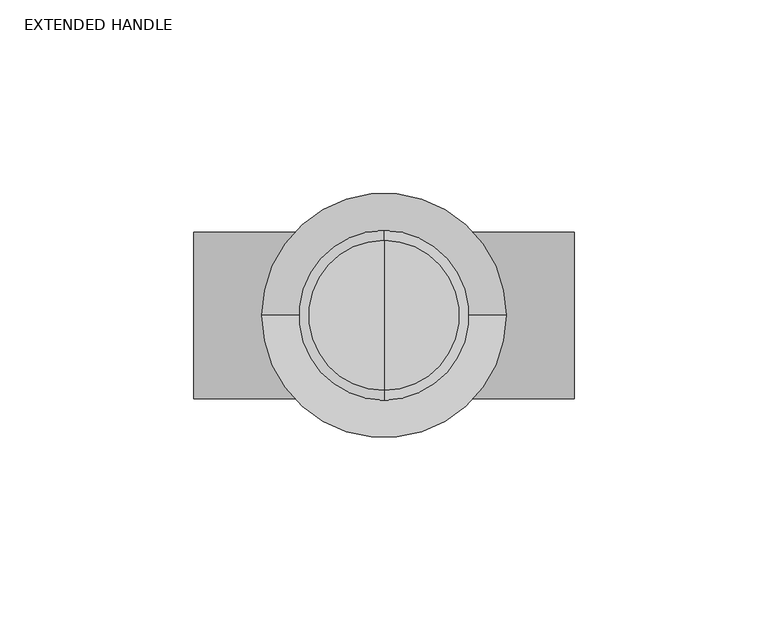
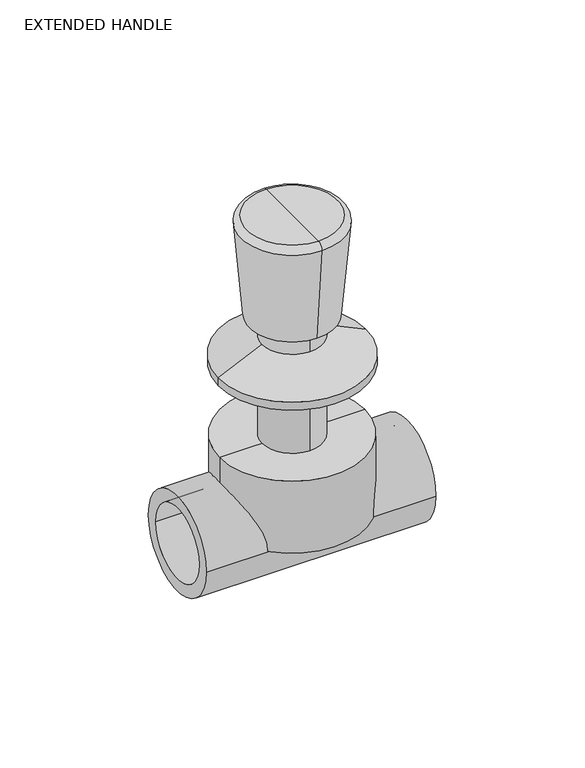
"""IFC4 building model written with IfcOpenShell, lengths in millimetres: valve geometry, Aquatherm - Concealed Valve Extended With Handle : EXTENDED HANDLE."""

from ifc_helpers import new_model, si_unit, point, frame, origin, origin_2d, place, context, project, spatial, polyline, circle_curve, ellipse_curve, trimmed, segment, composite_curve, outline, extrude, source, transform, mapped, element, save
from ifc_brep_helpers import plane_surface, cylinder_surface, revolved_surface, advanced_brep


def extended_handle_08318126(model_context):
    return source(origin(), model_context, "Body", "SolidModel", [
        advanced_brep(
        [(0.0, 19.3406564, 131.064), (0.0, -19.3406564, 131.064), (0.0, 0.0, 131.064), (0.0, 21.870991, 128.3026244), (0.0, -21.870991, 128.3026244), (0.0, 18.2125979, 86.487), (0.0, -18.2125979, 86.487), (0.0, 12.9442633, 86.487), (0.0, -12.9442633, 86.487), (0.0, 12.9442633, 77.277595), (0.0, -12.9442633, 77.277595), (0.0, 0.0, 77.277595)],
        [
            (0, 1, circle_curve(frame((0.0, 0.0, 131.064), z_axis=(0.0, 0.0, 1.0), x_axis=(0.0, -1.0, 0.0)), 19.3406564)),
            (1, 2),
            (2, 0),
            (1, 0, circle_curve(frame((0.0, 0.0, 131.064), z_axis=(0.0, 0.0, 1.0), x_axis=(0.0, -1.0, 0.0)), 19.3406564)),
            (3, 4, circle_curve(frame((0.0, 0.0, 128.3026244), z_axis=(0.0, 0.0, 1.0), x_axis=(0.0, -1.0, 0.0)), 21.870991)),
            (4, 1, circle_curve(frame((0.0, -19.3406564, 128.524), z_axis=(-1.0, 0.0, 0.0), x_axis=(0.0, -1.0, 0.0)), 2.54)),
            (0, 3, circle_curve(frame((0.0, 19.3406564, 128.524), z_axis=(-1.0, 0.0, 0.0), x_axis=(0.0, 1.0, 0.0)), 2.54)),
            (4, 3, circle_curve(frame((0.0, 0.0, 128.3026244), z_axis=(0.0, 0.0, 1.0), x_axis=(0.0, -1.0, 0.0)), 21.870991)),
            (5, 6, circle_curve(frame((0.0, 0.0, 86.487), z_axis=(0.0, 0.0, 1.0), x_axis=(0.0, -1.0, 0.0)), 18.2125979)),
            (6, 4),
            (3, 5),
            (6, 5, circle_curve(frame((0.0, 0.0, 86.487), z_axis=(0.0, 0.0, 1.0), x_axis=(0.0, -1.0, 0.0)), 18.2125979)),
            (7, 8, circle_curve(frame((0.0, 0.0, 86.487), z_axis=(0.0, 0.0, 1.0), x_axis=(0.0, -1.0, 0.0)), 12.9442633)),
            (8, 6),
            (5, 7),
            (8, 7, circle_curve(frame((0.0, 0.0, 86.487), z_axis=(0.0, 0.0, 1.0), x_axis=(0.0, -1.0, 0.0)), 12.9442633)),
            (9, 10, circle_curve(frame((0.0, 0.0, 77.277595), z_axis=(0.0, 0.0, 1.0), x_axis=(0.0, -1.0, 0.0)), 12.9442633)),
            (10, 8),
            (7, 9),
            (10, 9, circle_curve(frame((0.0, 0.0, 77.277595), z_axis=(0.0, 0.0, 1.0), x_axis=(0.0, -1.0, 0.0)), 12.9442633)),
            (11, 10),
            (9, 11),
        ],
        [
            plane_surface(frame((0.0, 0.0, 131.064), z_axis=(0.0, 0.0, 1.0), x_axis=(0.0, -1.0, 0.0))),
            revolved_surface(trimmed(ellipse_curve(frame((0.0, -19.3406564, 128.524), z_axis=(1.0, 0.0, 0.0), x_axis=(0.0, -1.0, 0.0)), 2.54, 2.54), [point((0.0, -19.3406564, 131.064))], [point((0.0, -21.870991, 128.3026244))], True, "CARTESIAN"), (0.0, 0.0, 153.6436097), (0.0, 0.0, -1.0)),
            revolved_surface(polyline([(0.0, -21.870991, 128.3026244), (0.0, -18.2125979, 86.487)]), (0.0, 0.0, 153.6436097), (0.0, 0.0, -1.0)),
            plane_surface(frame((0.0, 0.0, 86.487), z_axis=(0.0, 0.0, -1.0), x_axis=(0.0, -1.0, 0.0))),
            cylinder_surface(frame((0.0, 0.0, 153.6436097), z_axis=(0.0, 0.0, -1.0), x_axis=(0.0, -1.0, 0.0)), 12.9442633),
            plane_surface(frame((0.0, 0.0, 77.277595), z_axis=(0.0, 0.0, -1.0), x_axis=(0.0, -1.0, 0.0))),
        ],
        [
            (0, [[1, 2, 3]]),
            (0, [[4, -3, -2]]),
            (1, [[5, 6, -1, 7]]),
            (1, [[8, -7, -4, -6]]),
            (2, [[9, 10, -5, 11]]),
            (2, [[12, -11, -8, -10]]),
            (3, [[13, 14, -9, 15]]),
            (3, [[16, -15, -12, -14]]),
            (4, [[17, 18, -13, 19]]),
            (4, [[20, -19, -16, -18]]),
            (5, [[21, -17, 22]]),
            (5, [[-22, -20, -21]]),
        ],
    ),
        advanced_brep(
        [(-12.827, 0.0, 77.277595), (12.827, 0.0, 77.277595), (-31.496, 0.0, 68.5757667), (31.496, 0.0, 68.5757667)],
        [
            (0, 1, circle_curve(frame((0.0, 0.0, 77.277595), z_axis=(0.0, 0.0, 1.0), x_axis=(-1.0, 0.0, 0.0)), 12.827)),
            (1, 0, circle_curve(frame((0.0, 0.0, 77.277595), z_axis=(0.0, 0.0, 1.0), x_axis=(1.0, 0.0, 0.0)), 12.827)),
            (2, 3, circle_curve(frame((0.0, 0.0, 68.5757667), z_axis=(0.0, 0.0, -1.0), x_axis=(1.0, 0.0, 0.0)), 31.496)),
            (3, 2, circle_curve(frame((0.0, 0.0, 68.5757667), z_axis=(0.0, 0.0, -1.0), x_axis=(-1.0, 0.0, 0.0)), 31.496)),
            (3, 1),
            (0, 2),
        ],
        [
            plane_surface(frame((0.0, 0.0, 77.277595), z_axis=(0.0, 0.0, 1.0), x_axis=(0.0, -1.0, 0.0))),
            plane_surface(frame((0.0, 0.0, 68.5757667), z_axis=(0.0, 0.0, -1.0), x_axis=(0.0, -1.0, 0.0))),
            revolved_surface(polyline([(-12.827000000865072, 0.0, 77.277595), (-31.496, 0.0, 68.5757667)]), (0.0, 0.0, 83.2564022), (0.0, 0.0, -1.0)),
            revolved_surface(polyline([(12.827000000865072, 0.0, 77.277595), (31.496, 0.0, 68.5757667)]), (0.0, 0.0, 83.2564022), (0.0, 0.0, -1.0)),
        ],
        [
            (0, [[1, 2]]),
            (1, [[3, 4]]),
            (2, [[-4, 5, -1, 6]]),
            (3, [[-3, -6, -2, -5]]),
        ],
    ),
        extrude(outline(composite_curve([segment(trimmed(circle_curve(origin_2d(), 31.496), [point((-31.496, 0.0))], [point((31.496, 0.0))], False, "CARTESIAN"), True, "CONTINUOUS"), segment(trimmed(circle_curve(origin_2d(), 31.496), [point((31.496, 0.0))], [point((-31.496, 0.0))], False, "CARTESIAN"), True, "CONTINUOUS")], self_intersect=False)), frame((0.0, 0.0, 65.024), z_axis=(0.0, 0.0, 1.0), x_axis=(1.0, 0.0, 0.0)), (0.0, 0.0, 1.0), 3.5517667),
        extrude(outline(composite_curve([segment(trimmed(circle_curve(origin_2d(), 12.827), [point((0.0, 12.827))], [point((0.0, -12.827))], False, "CARTESIAN"), True, "CONTINUOUS"), segment(trimmed(circle_curve(origin_2d(), 12.827), [point((0.0, -12.827))], [point((0.0, 12.827))], False, "CARTESIAN"), True, "CONTINUOUS")], self_intersect=False)), frame((0.0, 0.0, 32.512), z_axis=(0.0, 0.0, 1.0), x_axis=(1.0, 0.0, 0.0)), (0.0, 0.0, 1.0), 32.512),
        advanced_brep(
        [(0.0, 0.0, 32.512), (30.988, 0.0, 32.512), (-30.988, 0.0, 32.512), (-30.988, 0.0, 0.0), (30.988, 0.0, 0.0), (0.0, 0.0, 0.0)],
        [
            (0, 1),
            (1, 2, circle_curve(frame((0.0, 0.0, 32.512), z_axis=(0.0, 0.0, 1.0), x_axis=(1.0, 0.0, 0.0)), 30.988)),
            (2, 0),
            (2, 1, circle_curve(frame((0.0, 0.0, 32.512), z_axis=(0.0, 0.0, 1.0), x_axis=(1.0, 0.0, 0.0)), 30.988)),
            (3, 4, circle_curve(frame((0.0, 0.0, 0.0), z_axis=(0.0, 0.0, -1.0), x_axis=(1.0, 0.0, 0.0)), 30.988)),
            (4, 5),
            (5, 3),
            (4, 3, circle_curve(frame((0.0, 0.0, 0.0), z_axis=(0.0, 0.0, -1.0), x_axis=(1.0, 0.0, 0.0)), 30.988)),
            (1, 4),
            (3, 2),
        ],
        [
            plane_surface(frame((0.0, 0.0, 32.512), z_axis=(0.0, 0.0, 1.0), x_axis=(1.0, 0.0, 0.0))),
            plane_surface(frame((0.0, 0.0, 0.0), z_axis=(0.0, 0.0, -1.0), x_axis=(1.0, 0.0, 0.0))),
            cylinder_surface(frame((0.0, 0.0, 35.6334888), z_axis=(0.0, 0.0, 1.0), x_axis=(1.0, 0.0, 0.0)), 30.988),
        ],
        [
            (0, [[1, 2, 3]]),
            (0, [[-3, 4, -1]]),
            (1, [[5, 6, 7]]),
            (1, [[8, -7, -6]]),
            (2, [[-2, 9, -5, 10]]),
            (2, [[-4, -10, -8, -9]]),
        ],
    ),
        extrude(outline(composite_curve([segment(trimmed(circle_curve(origin_2d(), 21.463), [point((-21.463, 0.0))], [point((21.463, 0.0))], False, "CARTESIAN"), True, "CONTINUOUS"), segment(trimmed(circle_curve(origin_2d(), 21.463), [point((21.463, 0.0))], [point((-21.463, 0.0))], False, "CARTESIAN"), True, "CONTINUOUS")], self_intersect=False), holes=[composite_curve([segment(trimmed(circle_curve(origin_2d(), 16.002), [point((-16.002, 0.0))], [point((16.002, 0.0))], True, "CARTESIAN"), True, "CONTINUOUS"), segment(trimmed(circle_curve(origin_2d(), 16.002), [point((16.002, 0.0))], [point((-16.002, 0.0))], True, "CARTESIAN"), True, "CONTINUOUS")], self_intersect=False)]), frame((-49.022, 0.0, 0.0), z_axis=(1.0, 0.0, 0.0), x_axis=(0.0, 1.0, 0.0)), (0.0, 0.0, 1.0), 98.044),
    ])


if __name__ == "__main__":
    model = new_model("IFC4")
    model_context = context("Model", 3, world=origin())
    ifc_project = project(units=[si_unit("LENGTHUNIT", "METRE", prefix="MILLI")], contexts=[model_context])
    site = spatial("IfcSite", under=ifc_project)
    building = spatial("IfcBuilding", under=site)
    placement = place(None, origin())
    extended_handle_shape = extended_handle_08318126(model_context)
    element("IfcValve", 1, ObjectType="Aquatherm - Concealed Valve Extended With Handle : EXTENDED HANDLE", at=placement, inside=building, context=model_context, shape_type="MappedRepresentation", body=[
        mapped(extended_handle_shape, transform((0.0, 0.0, 0.0), x_axis=(1.0, 0.0, 0.0), y_axis=(0.0, 1.0, 0.0), z_axis=(0.0, 0.0, 1.0))),
    ])
    save(model, "model.ifc")
